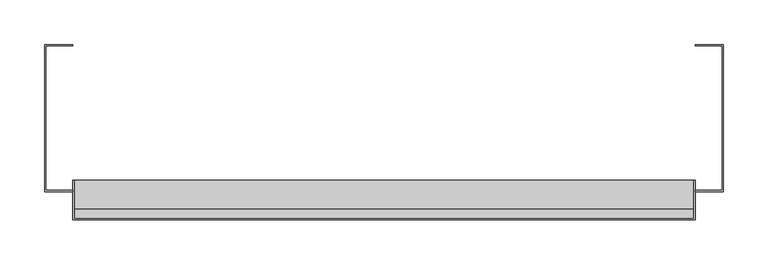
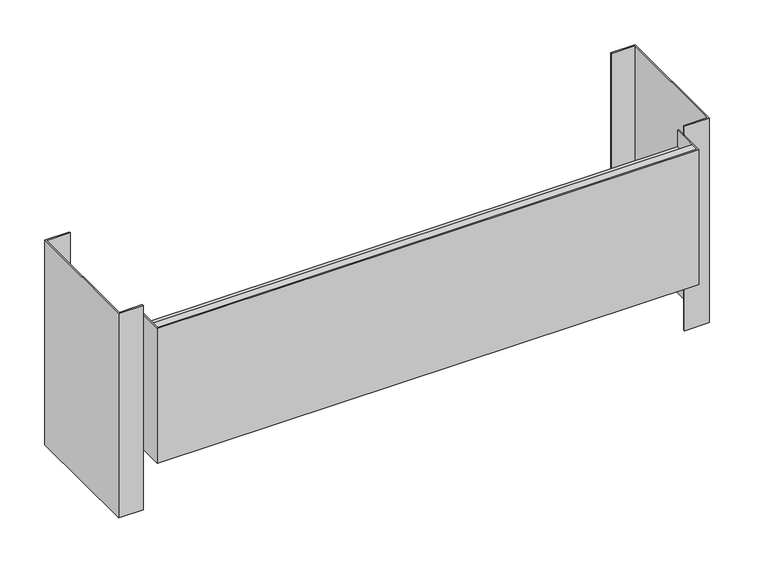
"""IFC4 building model written with IfcOpenShell, lengths in millimetres: furniture geometry."""

from ifc_helpers import new_model, si_unit, frame, origin, place, context, project, spatial, polyline, outline, extrude, source, transform, mapped, element, save


def furniture_75021c9e(model_context):
    return source(origin(), model_context, "Body", "SweptSolid", [
        extrude(outline(polyline([(-381.0, -126.20625), (-349.2500008, -126.20625), (-349.2500008, -127.79375), (-379.4125, -127.79375), (-379.4125, -289.7187621), (-349.2500008, -289.7187621), (-349.2500008, -291.3062621), (-381.0, -291.3062621), (-381.0, -126.20625)])), frame((0.0, 0.0, 215.9), z_axis=(0.0, 0.0, 1.0), x_axis=(1.0, 0.0, 0.0)), (0.0, 0.0, 1.0), 279.4),
        extrude(outline(polyline([(349.2500121, -126.20625), (381.0, -126.20625), (381.0, -291.3062621), (349.2500121, -291.3062621), (349.2500121, -289.7187621), (379.4125, -289.7187621), (379.4125, -127.79375), (349.2500121, -127.79375), (349.2500121, -126.20625)])), frame((0.0, 0.0, 215.9), z_axis=(0.0, 0.0, 1.0), x_axis=(1.0, 0.0, 0.0)), (0.0, 0.0, 1.0), 279.4),
        extrude(outline(polyline([(349.2500121, -278.6062561), (349.2500121, -323.05625), (-349.2500008, -323.05625), (-349.2500008, -278.6062561), (-347.6625008, -278.6062561), (-347.6625008, -321.46875), (347.6625121, -321.46875), (347.6625121, -278.6062561), (349.2500121, -278.6062561)])), frame((0.0, 0.0, 298.4499879), z_axis=(0.0, 0.0, 1.0), x_axis=(1.0, 0.0, 0.0)), (0.0, 0.0, 1.0), 184.1500242),
        extrude(outline(polyline([(347.6625121, -311.1182614), (347.6625121, -321.46875), (-347.6625008, -321.46875), (-347.6625008, -311.1182614), (347.6625121, -311.1182614)])), frame((0.0, 0.0, 473.0750121), z_axis=(0.0, 0.0, 1.0), x_axis=(1.0, 0.0, 0.0)), (0.0, 0.0, 1.0), 9.525),
        extrude(outline(polyline([(347.6625121, -278.6062561), (347.6625121, -321.46875), (-347.6625008, -321.46875), (-347.6625008, -278.6062561), (347.6625121, -278.6062561)])), frame((0.0, 0.0, 298.4499879), z_axis=(0.0, 0.0, 1.0), x_axis=(1.0, 0.0, 0.0)), (0.0, 0.0, 1.0), 161.9250363),
    ])


if __name__ == "__main__":
    model = new_model("IFC4")
    model_context = context("Model", 3, world=origin())
    ifc_project = project(units=[si_unit("LENGTHUNIT", "METRE", prefix="MILLI")], contexts=[model_context])
    site = spatial("IfcSite", under=ifc_project)
    building = spatial("IfcBuilding", under=site)
    placement = place(None, origin())
    furniture_shape = furniture_75021c9e(model_context)
    element("IfcFurniture", 1, ObjectType="HermanMiller_CoStruc_C2192_CFrameSupport : 11\"H x 24\"D x 30\"W", at=placement, inside=building, context=model_context, shape_type="MappedRepresentation", body=[
        mapped(furniture_shape, transform((0.0, 0.0, 0.0), x_axis=(1.0, 0.0, 0.0), y_axis=(0.0, 1.0, 0.0), z_axis=(0.0, 0.0, 1.0))),
    ])
    save(model, "model.ifc")
